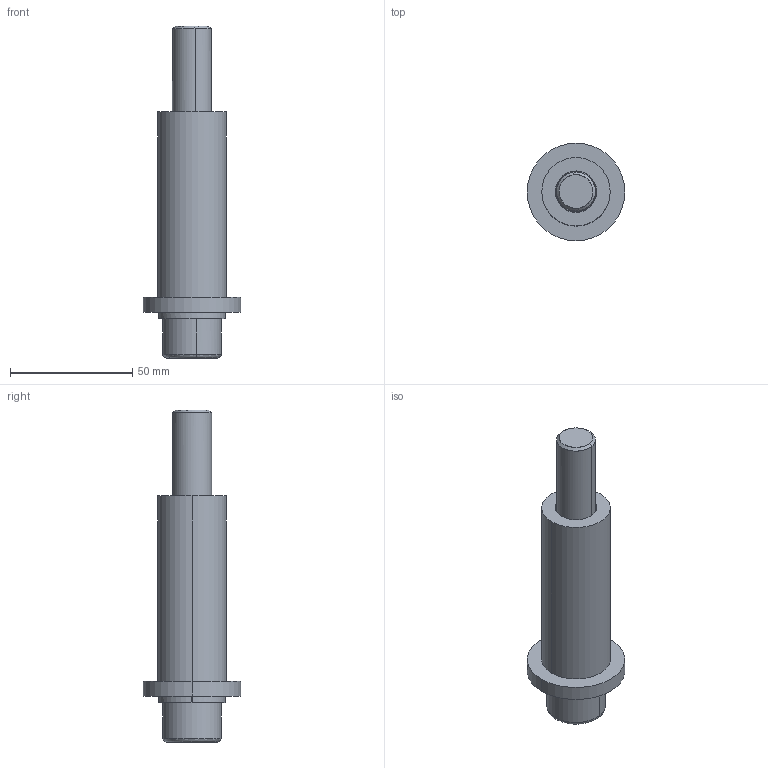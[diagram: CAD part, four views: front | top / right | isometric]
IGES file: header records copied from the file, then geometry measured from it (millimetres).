
Start section: START RECORD GO HERE.
Global section: file name: M312-03-16.igs; native system: DASSAULT SYSTEMES CATIA V5 R20 - www.3ds.com; preprocessor: CATIA Version 5 Release 20 ; author: Utente; organization: NB04-ASUS; date: 20201204.202320; units: millimetre
Bounding box: 40 x 40 x 136 mm (x, y, z)
Surface area: 22444.5 mm2 (no closed solid volume)
Topology: 0 solids, 0 shells, 50 faces, 226 edges, 224 vertices
Faces by surface type: revolution 28, plane 22
